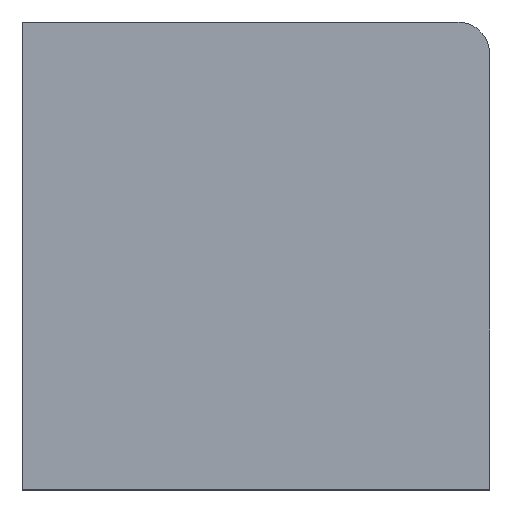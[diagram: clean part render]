
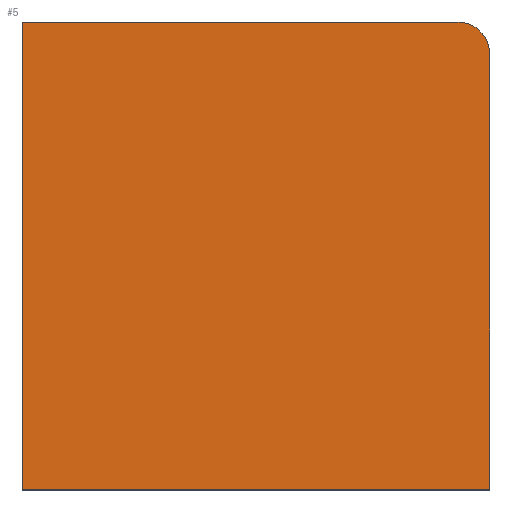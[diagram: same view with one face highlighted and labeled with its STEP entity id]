
A CAD part, top view. The second image highlights one B-rep face of the part: STEP entity #5.
In plain terms, the highlighted planar face has unit normal (0, 0, 1).
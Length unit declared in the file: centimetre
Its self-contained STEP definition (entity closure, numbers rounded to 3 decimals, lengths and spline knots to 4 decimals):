
#5 = ADVANCED_FACE ( 'NONE', ( #330 ), #481, .T. ) ;
#6 = CARTESIAN_POINT ( 'NONE',  ( 932.189, 932.189, 1000. ) ) ;
#30 = EDGE_CURVE ( 'NONE', #230, #165, #243, .T. ) ;
#31 = VECTOR ( 'NONE', #450, 100. ) ;
#81 = ORIENTED_EDGE ( 'NONE', *, *, #474, .T. ) ;
#97 = DIRECTION ( 'NONE',  ( 1., 0., 0. ) ) ;
#98 = VECTOR ( 'NONE', #508, 100. ) ;
#102 = CARTESIAN_POINT ( 'NONE',  ( 0., 0., 1000. ) ) ;
#120 = DIRECTION ( 'NONE',  ( -1., 0., 0. ) ) ;
#122 = CARTESIAN_POINT ( 'NONE',  ( 0., 0., 1000. ) ) ;
#139 = ORIENTED_EDGE ( 'NONE', *, *, #276, .T. ) ;
#148 = EDGE_CURVE ( 'NONE', #468, #173, #391, .T. ) ;
#159 = CARTESIAN_POINT ( 'NONE',  ( 1000., 932.189, 1000. ) ) ;
#161 = CARTESIAN_POINT ( 'NONE',  ( 0., 1000., 1000. ) ) ;
#165 = VERTEX_POINT ( 'NONE', #275 ) ;
#173 = VERTEX_POINT ( 'NONE', #317 ) ;
#179 = ORIENTED_EDGE ( 'NONE', *, *, #148, .T. ) ;
#203 = LINE ( 'NONE', #161, #494 ) ;
#219 = DIRECTION ( 'NONE',  ( 0., 0., 1. ) ) ;
#230 = VERTEX_POINT ( 'NONE', #159 ) ;
#243 = CIRCLE ( 'NONE', #477, 67.811 ) ;
#244 = LINE ( 'NONE', #251, #353 ) ;
#251 = CARTESIAN_POINT ( 'NONE',  ( 1000., 1000., 1000. ) ) ;
#261 = EDGE_CURVE ( 'NONE', #165, #468, #203, .T. ) ;
#264 = VERTEX_POINT ( 'NONE', #396 ) ;
#275 = CARTESIAN_POINT ( 'NONE',  ( 932.189, 1000., 1000. ) ) ;
#276 = EDGE_CURVE ( 'NONE', #264, #230, #244, .T. ) ;
#285 = DIRECTION ( 'NONE',  ( 0., 0., 1. ) ) ;
#317 = CARTESIAN_POINT ( 'NONE',  ( 0., 0., 1000. ) ) ;
#330 = FACE_OUTER_BOUND ( 'NONE', #402, .T. ) ;
#338 = ORIENTED_EDGE ( 'NONE', *, *, #30, .T. ) ;
#353 = VECTOR ( 'NONE', #398, 100. ) ;
#357 = CARTESIAN_POINT ( 'NONE',  ( 0., 1000., 1000. ) ) ;
#391 = LINE ( 'NONE', #357, #98 ) ;
#396 = CARTESIAN_POINT ( 'NONE',  ( 1000., 0., 1000. ) ) ;
#398 = DIRECTION ( 'NONE',  ( 0., 1., 0. ) ) ;
#402 = EDGE_LOOP ( 'NONE', ( #139, #338, #448, #179, #81 ) ) ;
#411 = CARTESIAN_POINT ( 'NONE',  ( 0., 1000., 1000. ) ) ;
#413 = DIRECTION ( 'NONE',  ( 1., 0., 0. ) ) ;
#437 = AXIS2_PLACEMENT_3D ( 'NONE', #122, #285, #413 ) ;
#448 = ORIENTED_EDGE ( 'NONE', *, *, #261, .T. ) ;
#450 = DIRECTION ( 'NONE',  ( 1., 0., 0. ) ) ;
#468 = VERTEX_POINT ( 'NONE', #411 ) ;
#474 = EDGE_CURVE ( 'NONE', #173, #264, #492, .T. ) ;
#477 = AXIS2_PLACEMENT_3D ( 'NONE', #6, #219, #97 ) ;
#481 = PLANE ( 'NONE',  #437 ) ;
#492 = LINE ( 'NONE', #102, #31 ) ;
#494 = VECTOR ( 'NONE', #120, 100. ) ;
#508 = DIRECTION ( 'NONE',  ( 0., -1., 0. ) ) ;
